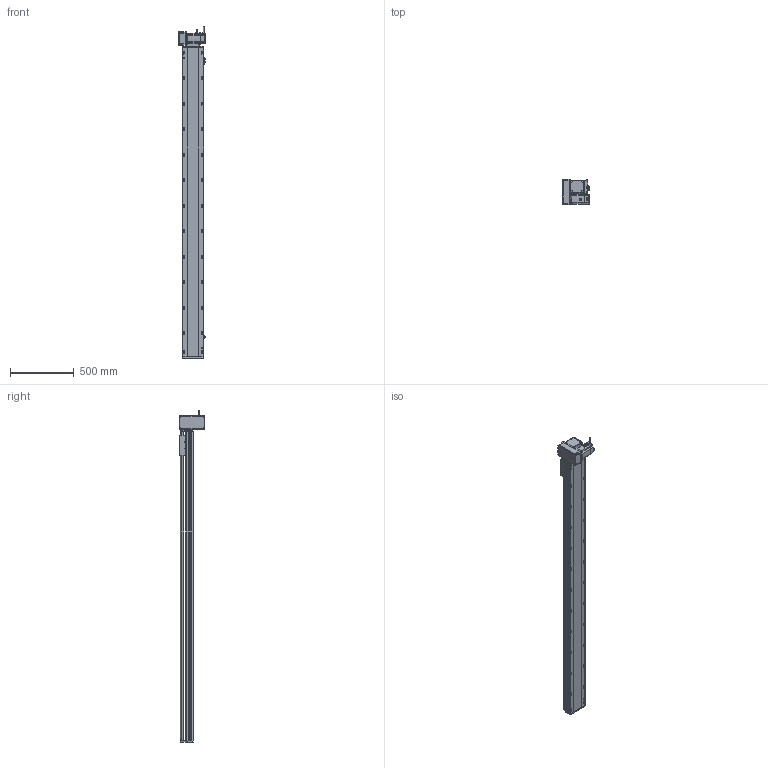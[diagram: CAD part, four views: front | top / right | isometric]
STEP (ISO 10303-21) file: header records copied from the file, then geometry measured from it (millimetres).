
FILE_DESCRIPTION (( 'STEP AP214' ), '1' );
FILE_NAME ('RTB17S-XX-2150-LM-M75-C4.STEP', '2025-12-12T00:45:02', ( '' ), ( '' ), 'SwSTEP 2.0', 'SolidWorks 2018', '' );
FILE_SCHEMA (( 'AUTOMOTIVE_DESIGN' ));
Length unit declared in the file: millimetre
Products named in the file (15): RTB17S-賑釱^RTB17S-XX-XX-LM-M75-C4; RTB17-R-011菁釱^RTB17S-XX-XX-LM-M75-C4; RTB17S-L-001-耜醱啣^RTB17S-XX-XX-LM-M75-C4; RTB22S-GY-008-M75--萇儂啣^RTB17S-LM-々湍釱蚾饜-750W_RTB17S-XX-XX-LM-M75-C4; RTB22S-GY-018P^RTB17S-LM-々湍釱蚾饜-750W_RTB17S-XX-XX-LM-M75-C4; RTB22S-GY-017P^RTB17S-LM-々湍釱蚾饜-750W_RTB17S-XX-XX-LM-M75-C4; RTH13-BL-012覜茼え俋离^RTB17S-賑釱_RTB17S-XX-XX-LM-M75-C4; 750W萇儂^RTB17S-XX-XX-LM-M75-C4; RTB17S-XX-2150-LM-M75-C4; RTB17S-L-014-T20-P75--々湍釱^RTB17S-LM-々湍釱蚾饜-750W_RTB17S-XX-XX-LM-M75-C4; RTB17S-L-004-賑釱^RTB17S-賑釱_RTB17S-XX-XX-LM-M75-C4; RTB17S-LM-々湍釱蚾饜-750W^RTB17S-XX-XX-LM-M75-C4; EE672^RTB17S-XX-XX-LM-M75-C4; RTB17S-L-007奻裔^RTB17S-XX-XX-LM-M75-C4; RTB22S-GY-005P^RTB17S-LM-々湍釱蚾饜-750W_RTB17S-XX-XX-LM-M75-C4
Assembly tree (17 placements, depth 3):
  RTB17S-XX-2150-LM-M75-C4
    RTB17-R-011菁釱^RTB17S-XX-XX-LM-M75-C4
    EE672^RTB17S-XX-XX-LM-M75-C4  x3
    RTB17S-L-001-耜醱啣^RTB17S-XX-XX-LM-M75-C4
    RTB17S-賑釱^RTB17S-XX-XX-LM-M75-C4
      RTB17S-L-004-賑釱^RTB17S-賑釱_RTB17S-XX-XX-LM-M75-C4
      RTH13-BL-012覜茼え俋离^RTB17S-賑釱_RTB17S-XX-XX-LM-M75-C4
    RTB17S-L-007奻裔^RTB17S-XX-XX-LM-M75-C4
    750W萇儂^RTB17S-XX-XX-LM-M75-C4
    RTB17S-LM-々湍釱蚾饜-750W^RTB17S-XX-XX-LM-M75-C4
      RTB17S-L-014-T20-P75--々湍釱^RTB17S-LM-々湍釱蚾饜-750W_RTB17S-XX-XX-LM-M75-C4
      RTB22S-GY-005P^RTB17S-LM-々湍釱蚾饜-750W_RTB17S-XX-XX-LM-M75-C4
      RTB22S-GY-017P^RTB17S-LM-々湍釱蚾饜-750W_RTB17S-XX-XX-LM-M75-C4  x2
      RTB22S-GY-008-M75--萇儂啣^RTB17S-LM-々湍釱蚾饜-750W_RTB17S-XX-XX-LM-M75-C4
      RTB22S-GY-018P^RTB17S-LM-々湍釱蚾饜-750W_RTB17S-XX-XX-LM-M75-C4
Bounding box: 210.4 x 200 x 2602.2 mm (x, y, z)
Volume: 19389971.8 mm3; surface area: 3483497.7 mm2
Topology: 17 solids, 17 shells, 2185 faces, 6106 edges, 3950 vertices
Faces by surface type: plane 982, cylinder 787, bspline 294, cone 110, sphere 8, torus 4
Entity records: 62710 total; most frequent: CARTESIAN_POINT 18570, ORIENTED_EDGE 9056, DIRECTION 8402, EDGE_CURVE 4528, AXIS2_PLACEMENT_3D 2970, VERTEX_POINT 2954, LINE 2462, VECTOR 2462
